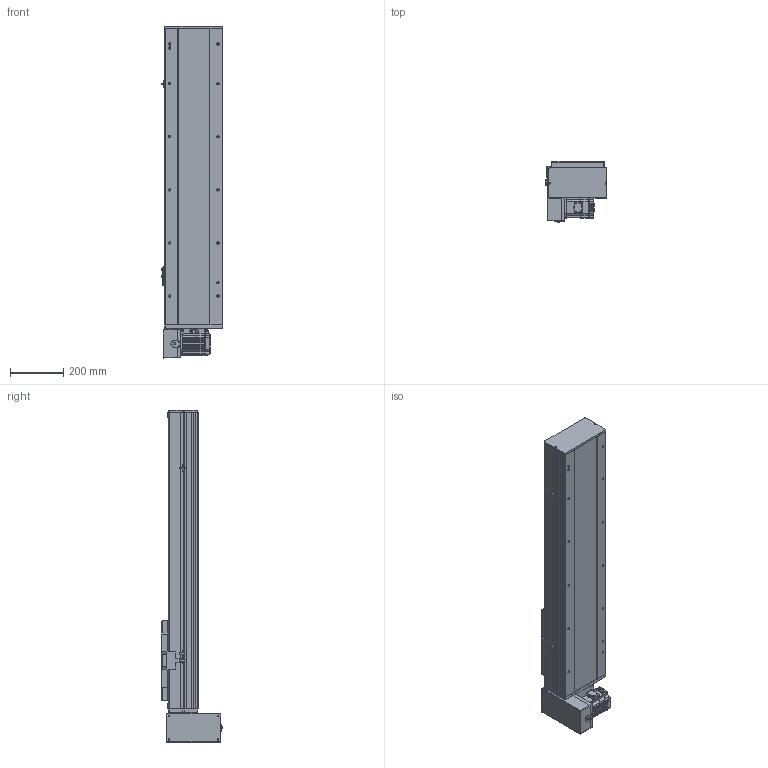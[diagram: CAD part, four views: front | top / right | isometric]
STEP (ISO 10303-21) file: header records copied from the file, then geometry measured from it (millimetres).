
FILE_DESCRIPTION (( 'STEP AP214' ), '1' );
FILE_NAME ('TPE22-L40-700-RD-T75-C4.STEP', '2023-04-12T11:18:35', ( '' ), ( '' ), 'SwSTEP 2.0', 'SolidWorks 2020', '' );
FILE_SCHEMA (( 'AUTOMOTIVE_DESIGN' ));
Length unit declared in the file: millimetre
Products named in the file (10): hexagon head bolts-full thread gb_GB_FASTENER_BOLT_STBAB A M5X16-N; 葩璃 TPE22 賑雄殤^TPE22-L40-RD-T75-C4; 葩璃 TPT22-L-009 萇儂啣^TPE22-L40-RD-T75-C4; 葩璃 TPE22-L-002 耜裔ZTMZ-220-04^TPE22-L40-RD-T75-C4; 葩璃 MSMD08PC_P75^TPE22-L40-RD-T75-C4; 葩璃 pm-t65-672^TPE22-L40-RD-T75-C4; TPE22-L40-700-RD-T75-C4; 葩璃 TPE22-L-001 菁釱MZ-220-01^TPE22-L40-RD-T75-C4; 葩璃 詩湍150^TPE22-L40-RD-T75-C4; 葩璃 TPE22-L-007 々湍釱^TPE22-L40-RD-T75-C4
Assembly tree (12 placements, depth 2):
  TPE22-L40-700-RD-T75-C4
    葩璃 TPE22-L-001 菁釱MZ-220-01^TPE22-L40-RD-T75-C4
    葩璃 TPE22-L-002 耜裔ZTMZ-220-04^TPE22-L40-RD-T75-C4  x2
    葩璃 詩湍150^TPE22-L40-RD-T75-C4
    葩璃 TPE22-L-007 々湍釱^TPE22-L40-RD-T75-C4
    葩璃 TPT22-L-009 萇儂啣^TPE22-L40-RD-T75-C4
    葩璃 TPE22 賑雄殤^TPE22-L40-RD-T75-C4
    葩璃 pm-t65-672^TPE22-L40-RD-T75-C4  x3
    葩璃 MSMD08PC_P75^TPE22-L40-RD-T75-C4
    hexagon head bolts-full thread gb_GB_FASTENER_BOLT_STBAB A M5X16-N
Bounding box: 233.7 x 229.65 x 1252 mm (x, y, z)
Volume: 14450141.7 mm3; surface area: 2272255 mm2
Topology: 22 solids, 22 shells, 1733 faces, 4559 edges, 2915 vertices
Faces by surface type: plane 1039, cylinder 564, cone 100, bspline 30
Entity records: 48902 total; most frequent: CARTESIAN_POINT 10169, DIRECTION 7690, ORIENTED_EDGE 7622, EDGE_CURVE 3811, LINE 2608, VECTOR 2608, AXIS2_PLACEMENT_3D 2541, VERTEX_POINT 2459
